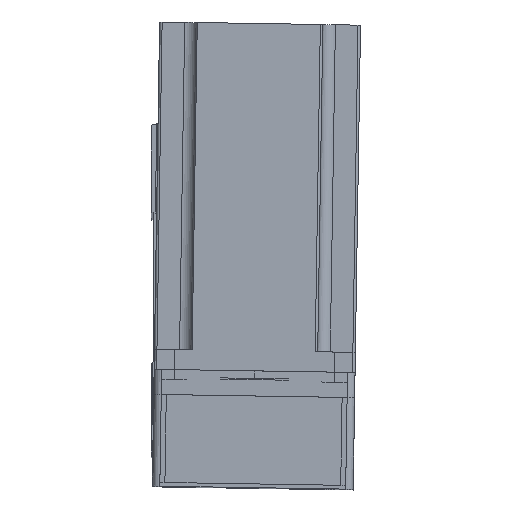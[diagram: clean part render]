
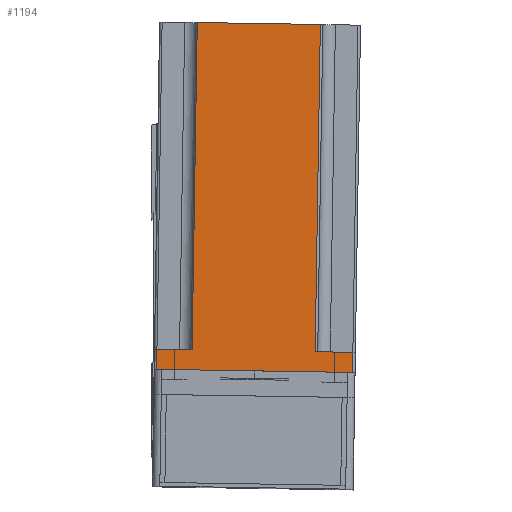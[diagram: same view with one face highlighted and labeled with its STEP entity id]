
A CAD part, top view. The second image highlights one B-rep face of the part: STEP entity #1194.
In plain terms, the highlighted planar face has unit normal (0, 0, 1) as drawn and (-1, 0, 0) by its records, which use the part's own axes.
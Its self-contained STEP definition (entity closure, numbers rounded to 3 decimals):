
#1194 = ADVANCED_FACE ( 'NONE', ( #50941 ), #16448, .F. ) ;
#2825 = DIRECTION ( 'NONE',  ( 0., 0., -1. ) ) ;
#2999 = ORIENTED_EDGE ( 'NONE', *, *, #45650, .F. ) ;
#4227 = VECTOR ( 'NONE', #13798, 1000. ) ;
#4409 = VERTEX_POINT ( 'NONE', #46911 ) ;
#7335 = LINE ( 'NONE', #49424, #16511 ) ;
#9333 = VECTOR ( 'NONE', #17772, 1000. ) ;
#9864 = VECTOR ( 'NONE', #26844, 1000. ) ;
#13738 = CARTESIAN_POINT ( 'NONE',  ( -40., -40., 138.3 ) ) ;
#13798 = DIRECTION ( 'NONE',  ( 0., -1., 0. ) ) ;
#14539 = EDGE_CURVE ( 'NONE', #44834, #50046, #46726, .T. ) ;
#14673 = CARTESIAN_POINT ( 'NONE',  ( -40., -39., 0. ) ) ;
#14855 = EDGE_CURVE ( 'NONE', #50046, #16188, #7335, .T. ) ;
#16188 = VERTEX_POINT ( 'NONE', #14673 ) ;
#16448 = PLANE ( 'NONE',  #30061 ) ;
#16511 = VECTOR ( 'NONE', #49110, 1000. ) ;
#17772 = DIRECTION ( 'NONE',  ( 0., 0., 1. ) ) ;
#17836 = CARTESIAN_POINT ( 'NONE',  ( -40., -39., 138.3 ) ) ;
#18921 = VERTEX_POINT ( 'NONE', #42172 ) ;
#19326 = DIRECTION ( 'NONE',  ( 1., 0., 0. ) ) ;
#20124 = ORIENTED_EDGE ( 'NONE', *, *, #32768, .T. ) ;
#22917 = VECTOR ( 'NONE', #31726, 1000. ) ;
#26513 = VECTOR ( 'NONE', #56730, 1000. ) ;
#26679 = CARTESIAN_POINT ( 'NONE',  ( -40., 39., 0. ) ) ;
#26784 = ORIENTED_EDGE ( 'NONE', *, *, #30540, .T. ) ;
#26844 = DIRECTION ( 'NONE',  ( 0., -1., 0. ) ) ;
#26935 = ORIENTED_EDGE ( 'NONE', *, *, #43569, .F. ) ;
#27967 = LINE ( 'NONE', #33270, #38485 ) ;
#30061 = AXIS2_PLACEMENT_3D ( 'NONE', #31115, #19326, #2825 ) ;
#30540 = EDGE_CURVE ( 'NONE', #50430, #44834, #27967, .T. ) ;
#31115 = CARTESIAN_POINT ( 'NONE',  ( -40., -40., 138.3 ) ) ;
#31325 = CARTESIAN_POINT ( 'NONE',  ( -40., -39., 8. ) ) ;
#31388 = CARTESIAN_POINT ( 'NONE',  ( -40., -40., 8. ) ) ;
#31726 = DIRECTION ( 'NONE',  ( 0., 0., -1. ) ) ;
#32180 = CARTESIAN_POINT ( 'NONE',  ( -40., 39., 138.3 ) ) ;
#32768 = EDGE_CURVE ( 'NONE', #16188, #38311, #45171, .T. ) ;
#33270 = CARTESIAN_POINT ( 'NONE',  ( -40., 40., 8. ) ) ;
#33424 = CARTESIAN_POINT ( 'NONE',  ( -40., 39., 8. ) ) ;
#34629 = DIRECTION ( 'NONE',  ( 0., 0., 1. ) ) ;
#36434 = CARTESIAN_POINT ( 'NONE',  ( -40., 25., 8. ) ) ;
#38311 = VERTEX_POINT ( 'NONE', #31325 ) ;
#38485 = VECTOR ( 'NONE', #38504, 1000. ) ;
#38504 = DIRECTION ( 'NONE',  ( 0., 1., 0. ) ) ;
#41275 = ORIENTED_EDGE ( 'NONE', *, *, #14539, .T. ) ;
#41359 = EDGE_CURVE ( 'NONE', #18921, #53423, #51673, .T. ) ;
#42172 = CARTESIAN_POINT ( 'NONE',  ( -40., -24., 8. ) ) ;
#43569 = EDGE_CURVE ( 'NONE', #50430, #4409, #46037, .T. ) ;
#44834 = VERTEX_POINT ( 'NONE', #33424 ) ;
#45171 = LINE ( 'NONE', #17836, #9333 ) ;
#45650 = EDGE_CURVE ( 'NONE', #4409, #53423, #50610, .T. ) ;
#45708 = CARTESIAN_POINT ( 'NONE',  ( -40., 25., 8. ) ) ;
#46037 = LINE ( 'NONE', #36434, #57987 ) ;
#46726 = LINE ( 'NONE', #32180, #22917 ) ;
#46911 = CARTESIAN_POINT ( 'NONE',  ( -40., 25., 138.3 ) ) ;
#49110 = DIRECTION ( 'NONE',  ( 0., -1., 0. ) ) ;
#49241 = ORIENTED_EDGE ( 'NONE', *, *, #41359, .T. ) ;
#49424 = CARTESIAN_POINT ( 'NONE',  ( -40., -40., 0. ) ) ;
#50046 = VERTEX_POINT ( 'NONE', #26679 ) ;
#50430 = VERTEX_POINT ( 'NONE', #45708 ) ;
#50610 = LINE ( 'NONE', #13738, #4227 ) ;
#50941 = FACE_OUTER_BOUND ( 'NONE', #55648, .T. ) ;
#51265 = ORIENTED_EDGE ( 'NONE', *, *, #14855, .T. ) ;
#51673 = LINE ( 'NONE', #56863, #26513 ) ;
#52152 = ORIENTED_EDGE ( 'NONE', *, *, #57458, .F. ) ;
#53423 = VERTEX_POINT ( 'NONE', #55632 ) ;
#55632 = CARTESIAN_POINT ( 'NONE',  ( -40., -24., 138.3 ) ) ;
#55648 = EDGE_LOOP ( 'NONE', ( #52152, #49241, #2999, #26935, #26784, #41275, #51265, #20124 ) ) ;
#56730 = DIRECTION ( 'NONE',  ( 0., 0., 1. ) ) ;
#56863 = CARTESIAN_POINT ( 'NONE',  ( -40., -24., 138.3 ) ) ;
#57458 = EDGE_CURVE ( 'NONE', #18921, #38311, #57627, .T. ) ;
#57627 = LINE ( 'NONE', #31388, #9864 ) ;
#57987 = VECTOR ( 'NONE', #34629, 1000. ) ;
